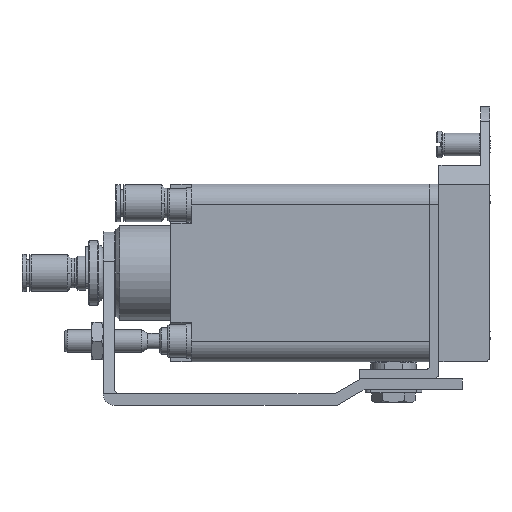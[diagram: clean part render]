
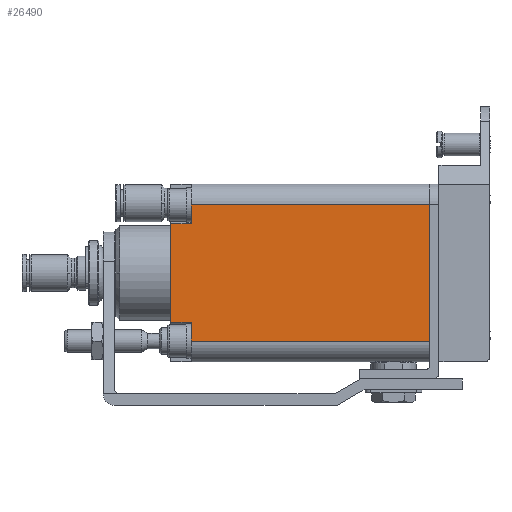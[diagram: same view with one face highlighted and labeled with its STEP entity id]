
A CAD part, left-side view. The second image highlights one B-rep face of the part: STEP entity #26490.
In plain terms, the highlighted planar face has unit normal (-1, 0, 0).
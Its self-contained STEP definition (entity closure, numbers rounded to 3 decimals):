
#1746 = VECTOR ( 'NONE', #33042, 1000. ) ;
#2189 = LINE ( 'NONE', #12354, #23312 ) ;
#2197 = CARTESIAN_POINT ( 'NONE',  ( -21., 55.85, -21.6 ) ) ;
#2604 = LINE ( 'NONE', #16548, #1746 ) ;
#2699 = DIRECTION ( 'NONE',  ( 0., -1., 0. ) ) ;
#3247 = DIRECTION ( 'NONE',  ( 0., 0., 1. ) ) ;
#3268 = VERTEX_POINT ( 'NONE', #12338 ) ;
#3552 = EDGE_CURVE ( 'NONE', #13498, #22188, #29026, .T. ) ;
#4946 = DIRECTION ( 'NONE',  ( 0., 0., 1. ) ) ;
#5582 = CARTESIAN_POINT ( 'NONE',  ( -21., 63., 0. ) ) ;
#7486 = CARTESIAN_POINT ( 'NONE',  ( -21., 63., 13. ) ) ;
#9023 = EDGE_CURVE ( 'NONE', #12628, #12485, #26633, .T. ) ;
#9370 = CARTESIAN_POINT ( 'NONE',  ( -21., 0., 0. ) ) ;
#9569 = VECTOR ( 'NONE', #28978, 1000. ) ;
#9771 = ORIENTED_EDGE ( 'NONE', *, *, #3552, .T. ) ;
#11057 = VECTOR ( 'NONE', #32087, 1000. ) ;
#11944 = ORIENTED_EDGE ( 'NONE', *, *, #25875, .T. ) ;
#12338 = CARTESIAN_POINT ( 'NONE',  ( -21., 63., -13. ) ) ;
#12354 = CARTESIAN_POINT ( 'NONE',  ( -21., 62.75, 18. ) ) ;
#12485 = VERTEX_POINT ( 'NONE', #29246 ) ;
#12628 = VERTEX_POINT ( 'NONE', #18802 ) ;
#13498 = VERTEX_POINT ( 'NONE', #15066 ) ;
#13641 = CARTESIAN_POINT ( 'NONE',  ( -21., 62.75, -18. ) ) ;
#13714 = ORIENTED_EDGE ( 'NONE', *, *, #27685, .T. ) ;
#14301 = CARTESIAN_POINT ( 'NONE',  ( -21., 62.75, -13. ) ) ;
#15066 = CARTESIAN_POINT ( 'NONE',  ( -21., 63., 18. ) ) ;
#15687 = ORIENTED_EDGE ( 'NONE', *, *, #25675, .F. ) ;
#16548 = CARTESIAN_POINT ( 'NONE',  ( -21., 65.75, 13. ) ) ;
#17040 = FACE_OUTER_BOUND ( 'NONE', #22747, .T. ) ;
#17323 = ORIENTED_EDGE ( 'NONE', *, *, #27969, .T. ) ;
#17690 = VERTEX_POINT ( 'NONE', #21890 ) ;
#18705 = VERTEX_POINT ( 'NONE', #25961 ) ;
#18802 = CARTESIAN_POINT ( 'NONE',  ( -21., 63., -18. ) ) ;
#18880 = VECTOR ( 'NONE', #3247, 1000. ) ;
#19395 = VECTOR ( 'NONE', #2699, 1000. ) ;
#20758 = VECTOR ( 'NONE', #30778, 1000. ) ;
#21457 = DIRECTION ( 'NONE',  ( -1., 0., 0. ) ) ;
#21596 = LINE ( 'NONE', #14301, #20758 ) ;
#21890 = CARTESIAN_POINT ( 'NONE',  ( -21., 68.5, 13. ) ) ;
#22188 = VERTEX_POINT ( 'NONE', #7486 ) ;
#22291 = CARTESIAN_POINT ( 'NONE',  ( -21., 0., 18. ) ) ;
#22635 = VERTEX_POINT ( 'NONE', #22291 ) ;
#22747 = EDGE_LOOP ( 'NONE', ( #30729, #15687, #13714, #23658, #34111, #11944, #17323, #9771 ) ) ;
#23009 = AXIS2_PLACEMENT_3D ( 'NONE', #2197, #21457, #4946 ) ;
#23312 = VECTOR ( 'NONE', #29315, 1000. ) ;
#23559 = CARTESIAN_POINT ( 'NONE',  ( -21., 63., 0. ) ) ;
#23658 = ORIENTED_EDGE ( 'NONE', *, *, #27402, .T. ) ;
#24595 = EDGE_CURVE ( 'NONE', #17690, #22188, #2604, .T. ) ;
#25135 = CARTESIAN_POINT ( 'NONE',  ( -21., 68.5, 0. ) ) ;
#25675 = EDGE_CURVE ( 'NONE', #18705, #17690, #34369, .T. ) ;
#25875 = EDGE_CURVE ( 'NONE', #12485, #22635, #33926, .T. ) ;
#25961 = CARTESIAN_POINT ( 'NONE',  ( -21., 68.5, -13. ) ) ;
#26490 = ADVANCED_FACE ( 'NONE', ( #17040 ), #26838, .T. ) ;
#26633 = LINE ( 'NONE', #13641, #19395 ) ;
#26838 = PLANE ( 'NONE',  #23009 ) ;
#27402 = EDGE_CURVE ( 'NONE', #3268, #12628, #31553, .T. ) ;
#27685 = EDGE_CURVE ( 'NONE', #18705, #3268, #21596, .T. ) ;
#27969 = EDGE_CURVE ( 'NONE', #22635, #13498, #2189, .T. ) ;
#28978 = DIRECTION ( 'NONE',  ( 0., 0., -1. ) ) ;
#29026 = LINE ( 'NONE', #5582, #34625 ) ;
#29246 = CARTESIAN_POINT ( 'NONE',  ( -21., 0., -18. ) ) ;
#29315 = DIRECTION ( 'NONE',  ( 0., 1., 0. ) ) ;
#30729 = ORIENTED_EDGE ( 'NONE', *, *, #24595, .F. ) ;
#30778 = DIRECTION ( 'NONE',  ( 0., -1., 0. ) ) ;
#31553 = LINE ( 'NONE', #23559, #9569 ) ;
#32087 = DIRECTION ( 'NONE',  ( 0., 0., 1. ) ) ;
#33042 = DIRECTION ( 'NONE',  ( 0., -1., 0. ) ) ;
#33649 = DIRECTION ( 'NONE',  ( 0., 0., -1. ) ) ;
#33926 = LINE ( 'NONE', #9370, #11057 ) ;
#34111 = ORIENTED_EDGE ( 'NONE', *, *, #9023, .T. ) ;
#34369 = LINE ( 'NONE', #25135, #18880 ) ;
#34625 = VECTOR ( 'NONE', #33649, 1000. ) ;
